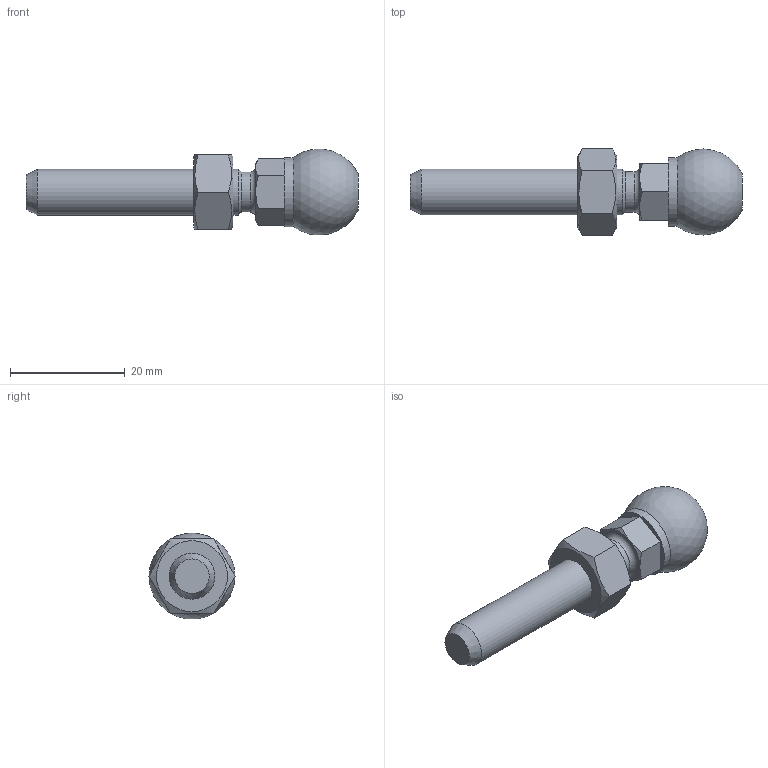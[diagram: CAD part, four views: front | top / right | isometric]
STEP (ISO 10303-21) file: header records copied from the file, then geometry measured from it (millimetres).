
FILE_DESCRIPTION(('STEP AP203'), '1');
FILE_NAME('A00020.108040', '', ('UNSPECIFIED'), ('UNSPECIFIED'), 'C3D Converter', 'C3D Toolkit', '');
FILE_SCHEMA(('CONFIG_CONTROL_DESIGN'));
Length unit declared in the file: millimetre
Products named in the file (2): A00020.108040
Assembly tree (1 placements, depth 2):
  A00020.108040
    (unnamed)
Bounding box: 57.8 x 15.01 x 14.94 mm (x, y, z)
Volume: 4775 mm3; surface area: 2184.9 mm2
Topology: 1 solids, 1 shells, 34 faces, 82 edges, 54 vertices
Faces by surface type: plane 18, cone 10, cylinder 4, torus 1, sphere 1
Full cylindrical faces by diameter (mm): 7 x1, 8 x2, 12 x1
Entity records: 2075 total; most frequent: CARTESIAN_POINT 984, DIRECTION 146, ORIENTED_EDGE 144, EDGE_CURVE 72, AXIS2_PLACEMENT_3D 64, VERTEX_POINT 54, EDGE_LOOP 48, FACE_BOUND 39
